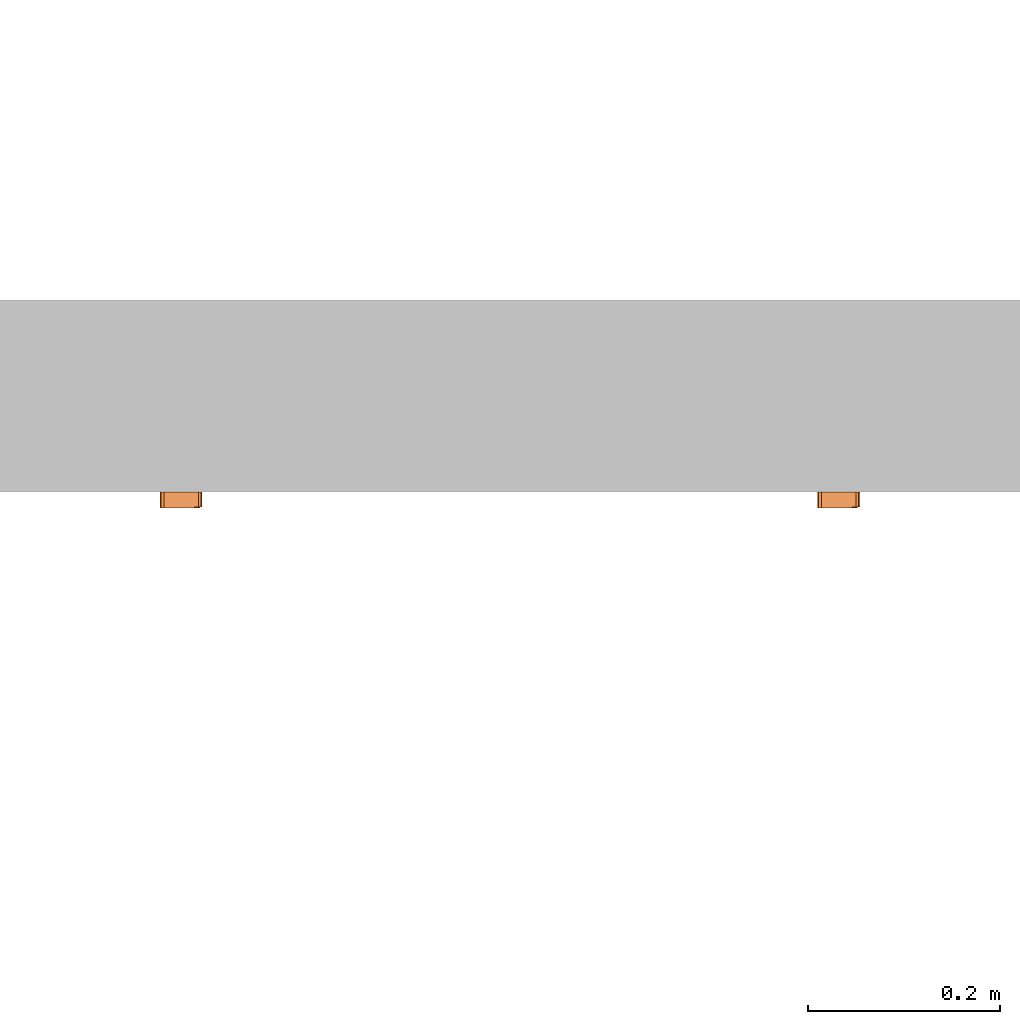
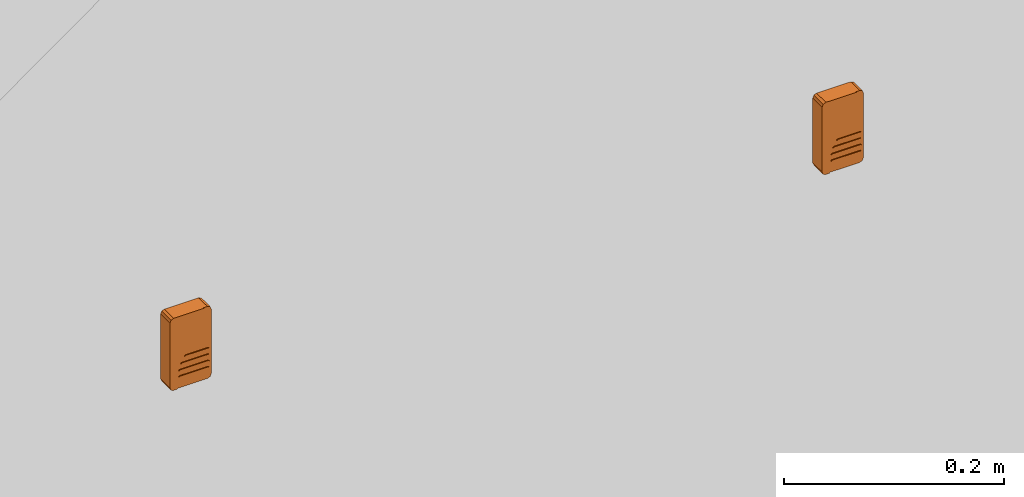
# One storey, part 187 of 197: 2 proxies.
"""IFC2X3 building model written with IfcOpenShell, lengths in metres."""

from ifc_helpers import new_model, entity, si_unit, converted_unit, direction, frame, origin, place, context, subcontext, project, spatial, faceted_brep, source, transform, mapped, material, material_list, type_object, type_shapes, element, save


model = new_model("IFC2X3")

# Units and contexts
model_context = context("Model", 3, precision=1e-05, world=origin(), true_north=direction((6.123031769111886e-17, 1.0)))
body_context = subcontext(model_context, "Body", "Model", "MODEL_VIEW")
ifc_project = project(units=[si_unit("LENGTHUNIT", "METRE"), converted_unit("PLANEANGLEUNIT", "DEGREE", entity("IfcPlaneAngleMeasure", 0.017453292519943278), si_unit("PLANEANGLEUNIT", "RADIAN"), dimensions=[0, 0, 0, 0, 0, 0, 0]), si_unit("AREAUNIT", "SQUARE_METRE")], contexts=[model_context])

# Site, building, storey
site_placement = place(None, origin())
site = spatial("IfcSite", under=ifc_project, at=site_placement, Name="Default", CompositionType="ELEMENT")
building_placement = place(site_placement, origin())
building = spatial("IfcBuilding", under=site, at=building_placement, CompositionType="ELEMENT")
storey_placement = place(building_placement, origin())
storey = spatial("IfcBuildingStorey", under=building, at=storey_placement, Name="Niveau 0", CompositionType="ELEMENT", Elevation=0.0)

# Proxies
ifc_material_1 = material(Name="BETCE-VOYANT LECTEUR BADGE-VERT")
ifc_material_2 = material(Name="BETCE-LECTEUR BADGE-NOIR")
ifc_material_list = material_list([ifc_material_1, ifc_material_2])
building_element_proxy_type_1 = type_object("IfcBuildingElementProxyType", Name="Lecteur de badge saillie controle acces:MAGENTA", PredefinedType="NOTDEFINED", material=ifc_material_list)
shared_shape_1 = source(origin(), body_context, "Body", "Brep", [
    faceted_brep([(0.007121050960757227, -0.01700000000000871, 0.019818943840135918), (0.00912105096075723, -0.01700000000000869, 0.01781894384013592), (0.011121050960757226, -0.01700000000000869, 0.01981894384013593), (0.00912105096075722, -0.01700000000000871, 0.02181894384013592), (0.009121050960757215, -0.01600000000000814, 0.021818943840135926), (0.01112105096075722, -0.01600000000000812, 0.019818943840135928), (0.009121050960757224, -0.01600000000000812, 0.017818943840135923), (0.0071210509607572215, -0.01600000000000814, 0.019818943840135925)], [[[0, 1, 2, 3]], [[4, 5, 6, 7]], [[0, 7, 6, 1]], [[6, 5, 2, 1]], [[2, 5, 4, 3]], [[4, 7, 0, 3]]]),
    faceted_brep([(0.00912105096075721, -0.01700000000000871, 0.021818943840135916), (0.014034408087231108, -0.017000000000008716, 0.028399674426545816), (0.014027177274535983, -0.017000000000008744, 0.03400142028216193), (-0.017999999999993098, -0.017000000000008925, 0.03999999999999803), (0.013910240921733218, -0.017000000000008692, 0.023212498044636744), (0.01112105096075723, -0.01700000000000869, 0.019818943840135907), (0.007121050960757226, -0.01700000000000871, 0.019818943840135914), (0.01354322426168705, -0.01700000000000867, 0.01845762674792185), (0.00912105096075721, -0.01700000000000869, 0.01781894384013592), (0.012821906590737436, -0.017000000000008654, 0.014152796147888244), (0.011634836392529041, -0.01700000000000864, 0.010315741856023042), (0.009870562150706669, -0.017000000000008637, 0.0069641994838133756), (0.007417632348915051, -0.017000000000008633, 0.004115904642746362), (0.0041645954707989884, -0.017000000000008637, 0.001788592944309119), (0.014000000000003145, -0.017000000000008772, 0.03999999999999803), (-0.021999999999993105, -0.017000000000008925, 0.035999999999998), (-0.020828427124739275, -0.01700000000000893, 0.03882842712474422), (-0.00416459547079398, -0.01700000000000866, -0.0017885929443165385), (-0.007417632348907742, -0.017000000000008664, -0.004115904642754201), (-0.009870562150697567, -0.01700000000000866, -0.006964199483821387), (-0.011634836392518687, -0.017000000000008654, -0.01031574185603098), (-0.012821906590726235, -0.01700000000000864, -0.014152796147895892), (-0.021999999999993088, -0.01700000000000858, -0.036000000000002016), (-0.013543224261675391, -0.017000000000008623, -0.018457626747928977), (-0.013910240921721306, -0.017000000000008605, -0.023212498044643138), (-0.014034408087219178, -0.01700000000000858, -0.028399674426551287), (-0.014027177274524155, -0.017000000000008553, -0.03400142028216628), (-0.017999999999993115, -0.017000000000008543, -0.04000000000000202), (-0.020828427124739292, -0.017000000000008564, -0.0388284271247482), (-0.01399999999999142, -0.017000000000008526, -0.04000000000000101), (0.0, -0.017000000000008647, 0.0), (0.019649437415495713, -0.017000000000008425, -0.02758760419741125), (0.018649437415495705, -0.017000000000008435, -0.026587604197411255), (-0.011350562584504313, -0.017000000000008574, -0.02658760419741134), (-0.012350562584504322, -0.017000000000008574, -0.027587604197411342), (-0.011350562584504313, -0.017000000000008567, -0.028587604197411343), (0.018649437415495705, -0.017000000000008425, -0.028587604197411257), (0.01964943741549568, -0.017000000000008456, -0.02058760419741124), (0.01864943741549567, -0.017000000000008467, -0.01958760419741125), (-0.011350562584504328, -0.01700000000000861, -0.019587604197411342), (-0.012350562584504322, -0.01700000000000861, -0.020587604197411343), (-0.011350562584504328, -0.0170000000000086, -0.021587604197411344), (0.01864943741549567, -0.017000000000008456, -0.021587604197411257), (0.019649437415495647, -0.01700000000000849, -0.013587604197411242), (0.01864943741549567, -0.0170000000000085, -0.01258760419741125), (-0.009350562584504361, -0.017000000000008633, -0.012587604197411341), (-0.010350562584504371, -0.017000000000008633, -0.013587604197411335), (-0.009350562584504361, -0.017000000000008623, -0.014587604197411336), (0.01864943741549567, -0.01700000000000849, -0.014587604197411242), (0.019649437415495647, -0.017000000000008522, -0.006587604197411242), (0.018649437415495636, -0.017000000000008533, -0.00558760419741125), (-0.005350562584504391, -0.017000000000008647, -0.0055876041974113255), (-0.0063505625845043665, -0.017000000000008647, -0.006587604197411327), (-0.005350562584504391, -0.017000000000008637, -0.007587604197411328), (0.018649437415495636, -0.017000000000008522, -0.007587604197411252), (-0.006350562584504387, -0.016000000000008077, -0.006587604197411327), (-0.007417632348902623, -0.016000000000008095, -0.004115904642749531), (-0.009870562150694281, -0.01600000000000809, -0.0069641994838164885), (-0.005350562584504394, -0.016000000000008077, -0.005587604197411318), (-0.005350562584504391, -0.01600000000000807, -0.0075876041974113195), (-0.004164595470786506, -0.01600000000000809, -0.0017885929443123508), (0.0, -0.01600000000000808, 0.0), (0.01864943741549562, -0.016000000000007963, -0.00558760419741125), (0.004164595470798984, -0.016000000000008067, 0.001788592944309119), (0.007417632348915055, -0.016000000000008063, 0.004115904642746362), (0.00987056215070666, -0.016000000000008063, 0.0069641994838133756), (0.011634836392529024, -0.016000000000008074, 0.010315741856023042), (0.01282190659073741, -0.016000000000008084, 0.01415279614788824), (0.019649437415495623, -0.016000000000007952, -0.006587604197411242), (0.013543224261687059, -0.0160000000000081, 0.01845762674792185), (0.02200000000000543, -0.016000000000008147, 0.035999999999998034), (0.022000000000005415, -0.016000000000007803, -0.03600000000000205), (0.01964943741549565, -0.01600000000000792, -0.013587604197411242), (0.01864943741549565, -0.016000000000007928, -0.01258760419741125), (0.018649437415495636, -0.016000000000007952, -0.007587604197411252), (-0.009350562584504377, -0.016000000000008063, -0.012587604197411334), (0.019649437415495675, -0.016000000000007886, -0.02058760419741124), (0.01864943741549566, -0.016000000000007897, -0.01958760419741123), (0.01864943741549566, -0.01600000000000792, -0.014587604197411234), (-0.00935056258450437, -0.016000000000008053, -0.014587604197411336), (-0.011350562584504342, -0.01600000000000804, -0.019587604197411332), (-0.013543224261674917, -0.016000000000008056, -0.01845762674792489), (-0.012821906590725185, -0.016000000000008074, -0.014152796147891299), (-0.010350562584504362, -0.016000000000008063, -0.013587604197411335), (-0.011634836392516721, -0.016000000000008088, -0.010315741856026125), (-0.012350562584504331, -0.01600000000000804, -0.020587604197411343), (-0.013910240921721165, -0.016000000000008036, -0.02321249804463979), (-0.011350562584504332, -0.016000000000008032, -0.021587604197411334), (-0.011350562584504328, -0.016000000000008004, -0.02658760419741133), (-0.012350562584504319, -0.016000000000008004, -0.027587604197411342), (-0.014034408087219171, -0.01600000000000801, -0.02839967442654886), (-0.011350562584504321, -0.016000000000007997, -0.028587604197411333), (-0.014027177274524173, -0.016000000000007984, -0.03400142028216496), (-0.013999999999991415, -0.016000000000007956, -0.040000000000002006), (0.01800000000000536, -0.016000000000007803, -0.040000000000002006), (0.020828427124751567, -0.016000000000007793, -0.038828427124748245), (0.018649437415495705, -0.016000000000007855, -0.02858760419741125), (0.01864943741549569, -0.016000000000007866, -0.026587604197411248), (0.01864943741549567, -0.016000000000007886, -0.02158760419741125), (0.019649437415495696, -0.016000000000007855, -0.02758760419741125), (0.01391024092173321, -0.016000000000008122, 0.02321249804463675), (0.014034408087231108, -0.016000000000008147, 0.028399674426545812), (0.014027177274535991, -0.016000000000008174, 0.03400142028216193), (0.018000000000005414, -0.016000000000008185, 0.03999999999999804), (0.02082842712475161, -0.016000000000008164, 0.03882842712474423), (0.014000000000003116, -0.016000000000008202, 0.03999999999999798), (0.00912105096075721, -0.01600000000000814, 0.02181894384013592), (0.0071210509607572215, -0.01600000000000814, 0.019818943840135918), (0.009121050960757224, -0.01600000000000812, 0.01781894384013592), (0.01112105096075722, -0.01600000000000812, 0.019818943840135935), (-0.02199999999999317, 0.0, 0.03599999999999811), (-0.020828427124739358, 0.0, 0.038828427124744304), (-0.01799999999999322, 0.0, 0.03999999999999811), (0.01800000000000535, 0.0, 0.03999999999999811), (0.02082842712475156, 0.0, 0.038828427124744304), (0.022000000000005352, 0.0, 0.03599999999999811), (0.022000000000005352, 0.0, -0.03600000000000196), (0.020828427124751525, 0.0, -0.03882842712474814), (0.018000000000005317, 0.0, -0.04000000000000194), (-0.017999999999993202, 0.0, -0.04000000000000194), (-0.020828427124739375, 0.0, -0.038828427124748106), (-0.02199999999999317, 0.0, -0.03600000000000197), (0.01400000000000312, -0.016454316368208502, 0.03999999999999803), (-0.013999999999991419, -0.016545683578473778, -0.04000000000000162), (-0.013995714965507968, -0.016499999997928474, -0.025753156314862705), (-0.014040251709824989, -0.016499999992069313, -0.031149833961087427), (-0.013764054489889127, -0.016499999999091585, -0.020779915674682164), (-0.013233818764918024, -0.016500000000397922, -0.016247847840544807), (-0.010831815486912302, -0.01649999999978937, -0.008578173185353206), (-0.012293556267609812, -0.016499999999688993, -0.012174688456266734), (-0.005898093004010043, -0.016499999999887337, -0.0028860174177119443), (0.0, -0.016454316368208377, 0.0), (-0.008737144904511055, -0.016499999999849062, -0.005476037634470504), (0.008737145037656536, -0.01649999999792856, 0.005476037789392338), (0.005898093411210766, -0.016499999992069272, 0.002886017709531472), (0.010831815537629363, -0.016499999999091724, 0.008578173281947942), (0.012293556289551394, -0.016500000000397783, 0.012174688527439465), (0.013764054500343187, -0.016499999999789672, 0.020779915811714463), (0.01323381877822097, -0.01649999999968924, 0.016247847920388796), (0.014040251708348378, -0.016499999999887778, 0.03114983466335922), (0.0139957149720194, -0.016499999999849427, 0.02575315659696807)], [[[0, 1, 2]], [[2, 3, 0]], [[0, 4, 1]], [[4, 0, 5]], [[6, 0, 3]], [[4, 5, 7]], [[7, 5, 8]], [[9, 7, 8]], [[8, 10, 9]], [[8, 11, 10]], [[8, 12, 11]], [[8, 6, 12]], [[12, 6, 13]], [[3, 2, 14]], [[6, 3, 15]], [[3, 16, 15]], [[17, 6, 15]], [[18, 17, 15]], [[18, 15, 19]], [[20, 19, 15]], [[21, 20, 15]], [[21, 15, 22]], [[23, 21, 22]], [[24, 23, 22]], [[22, 25, 24]], [[22, 26, 25]], [[22, 27, 26]], [[28, 27, 22]], [[29, 26, 27]], [[6, 17, 30]], [[6, 30, 13]], [[31, 32, 33, 34, 35, 36]], [[37, 38, 39, 40, 41, 42]], [[43, 44, 45, 46, 47, 48]], [[49, 50, 51, 52, 53, 54]], [[55, 56, 57]], [[58, 56, 55]], [[59, 55, 57]], [[56, 58, 60]], [[61, 60, 58]], [[62, 61, 58]], [[63, 61, 62]], [[64, 63, 62]], [[62, 65, 64]], [[62, 66, 65]], [[62, 67, 66]], [[68, 67, 62]], [[67, 68, 69]], [[69, 68, 70]], [[68, 71, 70]], [[71, 68, 72]], [[73, 72, 68]], [[73, 68, 74]], [[59, 73, 74]], [[73, 59, 75]], [[71, 72, 76]], [[72, 77, 76]], [[77, 72, 78]], [[77, 78, 79]], [[79, 80, 77]], [[79, 81, 80]], [[79, 82, 81]], [[79, 83, 82]], [[83, 75, 84]], [[82, 83, 84]], [[57, 84, 75]], [[59, 57, 75]], [[85, 80, 81]], [[81, 86, 85]], [[87, 85, 86]], [[86, 88, 87]], [[88, 86, 89]], [[89, 86, 90]], [[90, 91, 89]], [[92, 91, 90]], [[91, 92, 93]], [[91, 93, 94]], [[71, 94, 95]], [[96, 94, 71]], [[96, 91, 94]], [[97, 87, 88]], [[98, 87, 97]], [[97, 76, 98]], [[99, 76, 97]], [[71, 99, 96]], [[71, 76, 99]], [[70, 100, 69]], [[101, 100, 70]], [[101, 70, 102]], [[102, 70, 103]], [[70, 104, 103]], [[105, 102, 103]], [[106, 107, 108, 109]], [[110, 111, 112, 113, 114, 115, 116, 117, 118, 119, 120, 121]], [[3, 14, 122, 105, 103, 113, 112]], [[3, 112, 111, 16]], [[111, 110, 15, 16]], [[22, 15, 110, 121]], [[22, 121, 120, 28]], [[120, 119, 27, 28]], [[27, 119, 118, 94, 93, 123, 29]], [[94, 118, 117, 95]], [[117, 116, 71, 95]], [[70, 71, 116, 115]], [[70, 115, 114, 104]], [[114, 113, 103, 104]], [[26, 29, 123]], [[93, 92, 123]], [[124, 90, 86]], [[124, 125, 90]], [[125, 92, 90]], [[126, 86, 81]], [[126, 124, 86]], [[125, 123, 92]], [[125, 26, 123]], [[25, 124, 24]], [[125, 124, 25]], [[24, 124, 126]], [[81, 82, 127]], [[24, 126, 23]], [[23, 126, 127]], [[127, 126, 81]], [[127, 21, 23]], [[25, 26, 125]], [[128, 84, 57]], [[21, 129, 20]], [[130, 56, 60]], [[131, 17, 130]], [[19, 132, 18]], [[57, 56, 132]], [[60, 61, 63, 131]], [[131, 13, 30, 17]], [[84, 129, 82]], [[20, 129, 128]], [[132, 128, 57]], [[21, 127, 129]], [[128, 132, 19]], [[18, 132, 130]], [[18, 130, 17]], [[130, 60, 131]], [[128, 129, 84]], [[20, 128, 19]], [[130, 132, 56]], [[129, 127, 82]], [[133, 64, 65]], [[133, 134, 64]], [[134, 63, 64]], [[135, 65, 66]], [[135, 133, 65]], [[134, 131, 63]], [[134, 13, 131]], [[12, 133, 11]], [[134, 133, 12]], [[11, 133, 135]], [[66, 67, 136]], [[11, 135, 10]], [[10, 135, 136]], [[136, 135, 66]], [[136, 9, 10]], [[12, 13, 134]], [[137, 69, 100]], [[9, 138, 7]], [[139, 101, 102]], [[122, 2, 139]], [[4, 140, 1]], [[100, 101, 140]], [[102, 105, 122]], [[122, 14, 2]], [[69, 138, 67]], [[7, 138, 137]], [[140, 137, 100]], [[9, 136, 138]], [[137, 140, 4]], [[1, 140, 139]], [[1, 139, 2]], [[139, 102, 122]], [[137, 138, 69]], [[7, 137, 4]], [[139, 140, 101]], [[138, 136, 67]], [[50, 62, 58, 51]], [[58, 55, 52, 51]], [[52, 55, 59, 53]], [[53, 59, 74, 54]], [[74, 68, 49, 54]], [[49, 68, 62, 50]], [[44, 73, 75, 45]], [[75, 83, 46, 45]], [[46, 83, 79, 47]], [[47, 79, 78, 48]], [[78, 72, 43, 48]], [[43, 72, 73, 44]], [[38, 77, 80, 39]], [[80, 85, 40, 39]], [[40, 85, 87, 41]], [[41, 87, 98, 42]], [[98, 76, 37, 42]], [[37, 76, 77, 38]], [[32, 97, 88, 33]], [[88, 89, 34, 33]], [[34, 89, 91, 35]], [[35, 91, 96, 36]], [[96, 99, 31, 36]], [[31, 99, 97, 32]], [[106, 0, 6, 107]], [[109, 5, 0, 106]], [[108, 8, 5, 109]], [[107, 6, 8, 108]]]),
])
type_shapes(building_element_proxy_type_1, [shared_shape_1])
proxy_1_placement = place(storey_placement, frame((-504.53459512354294, -41.558644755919, 1.0)))
element("IfcBuildingElementProxy", 1, at=proxy_1_placement, inside=storey, type_object=building_element_proxy_type_1, material=ifc_material_list, Name="Lecteur de badge saillie controle acces:MAGENTA", ObjectType="Lecteur de badge saillie controle acces:MAGENTA", context=body_context, shape_type="MappedRepresentation", body=[
    mapped(shared_shape_1, transform((0.0, 0.0, 0.0), scale=1.0)),
])
building_element_proxy_type_2 = type_object("IfcBuildingElementProxyType", Name="Lecteur de badge saillie controle acces:MARRON", PredefinedType="NOTDEFINED", material=ifc_material_list)
shared_shape_2 = source(origin(), body_context, "Body", "Brep", [
    faceted_brep([(0.007121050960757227, -0.01700000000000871, 0.019818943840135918), (0.00912105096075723, -0.01700000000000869, 0.01781894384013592), (0.011121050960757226, -0.01700000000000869, 0.01981894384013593), (0.00912105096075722, -0.01700000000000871, 0.02181894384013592), (0.009121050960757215, -0.01600000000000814, 0.021818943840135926), (0.01112105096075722, -0.01600000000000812, 0.019818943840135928), (0.009121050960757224, -0.01600000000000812, 0.017818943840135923), (0.0071210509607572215, -0.01600000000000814, 0.019818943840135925)], [[[0, 1, 2, 3]], [[4, 5, 6, 7]], [[0, 7, 6, 1]], [[6, 5, 2, 1]], [[2, 5, 4, 3]], [[4, 7, 0, 3]]]),
    faceted_brep([(0.00912105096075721, -0.01700000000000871, 0.021818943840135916), (0.014034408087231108, -0.017000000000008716, 0.028399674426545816), (0.014027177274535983, -0.017000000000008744, 0.03400142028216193), (-0.017999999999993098, -0.017000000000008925, 0.03999999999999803), (0.013910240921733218, -0.017000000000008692, 0.023212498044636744), (0.01112105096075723, -0.01700000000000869, 0.019818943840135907), (0.007121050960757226, -0.01700000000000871, 0.019818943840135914), (0.01354322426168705, -0.01700000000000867, 0.01845762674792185), (0.00912105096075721, -0.01700000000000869, 0.01781894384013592), (0.012821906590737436, -0.017000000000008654, 0.014152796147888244), (0.011634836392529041, -0.01700000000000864, 0.010315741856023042), (0.009870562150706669, -0.017000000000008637, 0.0069641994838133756), (0.007417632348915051, -0.017000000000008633, 0.004115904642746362), (0.0041645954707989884, -0.017000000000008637, 0.001788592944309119), (0.014000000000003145, -0.017000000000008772, 0.03999999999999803), (-0.021999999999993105, -0.017000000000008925, 0.035999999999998), (-0.020828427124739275, -0.01700000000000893, 0.03882842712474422), (-0.00416459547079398, -0.01700000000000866, -0.0017885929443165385), (-0.007417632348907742, -0.017000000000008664, -0.004115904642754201), (-0.009870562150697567, -0.01700000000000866, -0.006964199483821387), (-0.011634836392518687, -0.017000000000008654, -0.01031574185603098), (-0.012821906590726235, -0.01700000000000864, -0.014152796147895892), (-0.021999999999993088, -0.01700000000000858, -0.036000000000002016), (-0.013543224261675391, -0.017000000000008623, -0.018457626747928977), (-0.013910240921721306, -0.017000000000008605, -0.023212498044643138), (-0.014034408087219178, -0.01700000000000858, -0.028399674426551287), (-0.014027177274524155, -0.017000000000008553, -0.03400142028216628), (-0.017999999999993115, -0.017000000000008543, -0.04000000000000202), (-0.020828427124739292, -0.017000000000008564, -0.0388284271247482), (-0.01399999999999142, -0.017000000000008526, -0.04000000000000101), (0.0, -0.017000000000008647, 0.0), (0.019649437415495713, -0.017000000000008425, -0.02758760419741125), (0.018649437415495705, -0.017000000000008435, -0.026587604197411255), (-0.011350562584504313, -0.017000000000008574, -0.02658760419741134), (-0.012350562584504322, -0.017000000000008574, -0.027587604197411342), (-0.011350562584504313, -0.017000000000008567, -0.028587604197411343), (0.018649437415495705, -0.017000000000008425, -0.028587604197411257), (0.01964943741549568, -0.017000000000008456, -0.02058760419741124), (0.01864943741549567, -0.017000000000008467, -0.01958760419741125), (-0.011350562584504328, -0.01700000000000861, -0.019587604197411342), (-0.012350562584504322, -0.01700000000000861, -0.020587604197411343), (-0.011350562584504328, -0.0170000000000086, -0.021587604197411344), (0.01864943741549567, -0.017000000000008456, -0.021587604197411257), (0.019649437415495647, -0.01700000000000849, -0.013587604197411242), (0.01864943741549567, -0.0170000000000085, -0.01258760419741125), (-0.009350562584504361, -0.017000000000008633, -0.012587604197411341), (-0.010350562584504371, -0.017000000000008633, -0.013587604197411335), (-0.009350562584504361, -0.017000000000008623, -0.014587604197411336), (0.01864943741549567, -0.01700000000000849, -0.014587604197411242), (0.019649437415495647, -0.017000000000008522, -0.006587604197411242), (0.018649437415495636, -0.017000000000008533, -0.00558760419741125), (-0.005350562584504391, -0.017000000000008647, -0.0055876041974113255), (-0.0063505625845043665, -0.017000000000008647, -0.006587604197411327), (-0.005350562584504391, -0.017000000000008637, -0.007587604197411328), (0.018649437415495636, -0.017000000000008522, -0.007587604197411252), (-0.006350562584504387, -0.016000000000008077, -0.006587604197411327), (-0.007417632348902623, -0.016000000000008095, -0.004115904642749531), (-0.009870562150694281, -0.01600000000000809, -0.0069641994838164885), (-0.005350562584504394, -0.016000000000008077, -0.005587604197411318), (-0.005350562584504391, -0.01600000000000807, -0.0075876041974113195), (-0.004164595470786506, -0.01600000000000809, -0.0017885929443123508), (0.0, -0.01600000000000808, 0.0), (0.01864943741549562, -0.016000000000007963, -0.00558760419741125), (0.004164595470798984, -0.016000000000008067, 0.001788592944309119), (0.007417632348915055, -0.016000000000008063, 0.004115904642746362), (0.00987056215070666, -0.016000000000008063, 0.0069641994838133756), (0.011634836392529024, -0.016000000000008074, 0.010315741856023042), (0.01282190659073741, -0.016000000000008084, 0.01415279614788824), (0.019649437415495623, -0.016000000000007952, -0.006587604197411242), (0.013543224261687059, -0.0160000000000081, 0.01845762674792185), (0.02200000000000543, -0.016000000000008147, 0.035999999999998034), (0.022000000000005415, -0.016000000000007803, -0.03600000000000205), (0.01964943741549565, -0.01600000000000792, -0.013587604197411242), (0.01864943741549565, -0.016000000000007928, -0.01258760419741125), (0.018649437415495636, -0.016000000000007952, -0.007587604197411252), (-0.009350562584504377, -0.016000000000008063, -0.012587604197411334), (0.019649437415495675, -0.016000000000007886, -0.02058760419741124), (0.01864943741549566, -0.016000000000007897, -0.01958760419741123), (0.01864943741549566, -0.01600000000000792, -0.014587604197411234), (-0.00935056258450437, -0.016000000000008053, -0.014587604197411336), (-0.011350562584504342, -0.01600000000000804, -0.019587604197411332), (-0.013543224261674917, -0.016000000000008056, -0.01845762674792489), (-0.012821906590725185, -0.016000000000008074, -0.014152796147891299), (-0.010350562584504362, -0.016000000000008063, -0.013587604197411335), (-0.011634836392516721, -0.016000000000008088, -0.010315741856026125), (-0.012350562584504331, -0.01600000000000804, -0.020587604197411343), (-0.013910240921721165, -0.016000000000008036, -0.02321249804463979), (-0.011350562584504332, -0.016000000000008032, -0.021587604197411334), (-0.011350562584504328, -0.016000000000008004, -0.02658760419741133), (-0.012350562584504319, -0.016000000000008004, -0.027587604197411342), (-0.014034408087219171, -0.01600000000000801, -0.02839967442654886), (-0.011350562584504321, -0.016000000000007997, -0.028587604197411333), (-0.014027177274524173, -0.016000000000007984, -0.03400142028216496), (-0.013999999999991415, -0.016000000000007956, -0.040000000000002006), (0.01800000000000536, -0.016000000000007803, -0.040000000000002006), (0.020828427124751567, -0.016000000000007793, -0.038828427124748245), (0.018649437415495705, -0.016000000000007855, -0.02858760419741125), (0.01864943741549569, -0.016000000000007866, -0.026587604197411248), (0.01864943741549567, -0.016000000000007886, -0.02158760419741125), (0.019649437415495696, -0.016000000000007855, -0.02758760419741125), (0.01391024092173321, -0.016000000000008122, 0.02321249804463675), (0.014034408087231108, -0.016000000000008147, 0.028399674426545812), (0.014027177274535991, -0.016000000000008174, 0.03400142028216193), (0.018000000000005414, -0.016000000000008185, 0.03999999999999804), (0.02082842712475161, -0.016000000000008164, 0.03882842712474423), (0.014000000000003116, -0.016000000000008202, 0.03999999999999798), (0.00912105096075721, -0.01600000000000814, 0.02181894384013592), (0.0071210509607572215, -0.01600000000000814, 0.019818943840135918), (0.009121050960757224, -0.01600000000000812, 0.01781894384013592), (0.01112105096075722, -0.01600000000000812, 0.019818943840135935), (-0.02199999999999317, 0.0, 0.03599999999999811), (-0.020828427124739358, 0.0, 0.038828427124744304), (-0.01799999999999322, 0.0, 0.03999999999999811), (0.01800000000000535, 0.0, 0.03999999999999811), (0.02082842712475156, 0.0, 0.038828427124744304), (0.022000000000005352, 0.0, 0.03599999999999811), (0.022000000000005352, 0.0, -0.03600000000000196), (0.020828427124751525, 0.0, -0.03882842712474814), (0.018000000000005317, 0.0, -0.04000000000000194), (-0.017999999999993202, 0.0, -0.04000000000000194), (-0.020828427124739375, 0.0, -0.038828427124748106), (-0.02199999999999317, 0.0, -0.03600000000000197), (0.01400000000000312, -0.016454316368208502, 0.03999999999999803), (-0.013999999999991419, -0.016545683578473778, -0.04000000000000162), (-0.013995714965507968, -0.016499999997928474, -0.025753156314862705), (-0.014040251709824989, -0.016499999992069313, -0.031149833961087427), (-0.013764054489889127, -0.016499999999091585, -0.020779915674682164), (-0.013233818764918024, -0.016500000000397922, -0.016247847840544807), (-0.010831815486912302, -0.01649999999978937, -0.008578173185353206), (-0.012293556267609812, -0.016499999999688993, -0.012174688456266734), (-0.005898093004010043, -0.016499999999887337, -0.0028860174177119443), (0.0, -0.016454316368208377, 0.0), (-0.008737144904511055, -0.016499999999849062, -0.005476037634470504), (0.008737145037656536, -0.01649999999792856, 0.005476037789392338), (0.005898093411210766, -0.016499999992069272, 0.002886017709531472), (0.010831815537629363, -0.016499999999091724, 0.008578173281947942), (0.012293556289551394, -0.016500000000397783, 0.012174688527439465), (0.013764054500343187, -0.016499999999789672, 0.020779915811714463), (0.01323381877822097, -0.01649999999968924, 0.016247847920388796), (0.014040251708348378, -0.016499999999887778, 0.03114983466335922), (0.0139957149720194, -0.016499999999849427, 0.02575315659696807)], [[[0, 1, 2]], [[2, 3, 0]], [[0, 4, 1]], [[4, 0, 5]], [[6, 0, 3]], [[4, 5, 7]], [[7, 5, 8]], [[9, 7, 8]], [[8, 10, 9]], [[8, 11, 10]], [[8, 12, 11]], [[8, 6, 12]], [[12, 6, 13]], [[3, 2, 14]], [[6, 3, 15]], [[3, 16, 15]], [[17, 6, 15]], [[18, 17, 15]], [[18, 15, 19]], [[20, 19, 15]], [[21, 20, 15]], [[21, 15, 22]], [[23, 21, 22]], [[24, 23, 22]], [[22, 25, 24]], [[22, 26, 25]], [[22, 27, 26]], [[28, 27, 22]], [[29, 26, 27]], [[6, 17, 30]], [[6, 30, 13]], [[31, 32, 33, 34, 35, 36]], [[37, 38, 39, 40, 41, 42]], [[43, 44, 45, 46, 47, 48]], [[49, 50, 51, 52, 53, 54]], [[55, 56, 57]], [[58, 56, 55]], [[59, 55, 57]], [[56, 58, 60]], [[61, 60, 58]], [[62, 61, 58]], [[63, 61, 62]], [[64, 63, 62]], [[62, 65, 64]], [[62, 66, 65]], [[62, 67, 66]], [[68, 67, 62]], [[67, 68, 69]], [[69, 68, 70]], [[68, 71, 70]], [[71, 68, 72]], [[73, 72, 68]], [[73, 68, 74]], [[59, 73, 74]], [[73, 59, 75]], [[71, 72, 76]], [[72, 77, 76]], [[77, 72, 78]], [[77, 78, 79]], [[79, 80, 77]], [[79, 81, 80]], [[79, 82, 81]], [[79, 83, 82]], [[83, 75, 84]], [[82, 83, 84]], [[57, 84, 75]], [[59, 57, 75]], [[85, 80, 81]], [[81, 86, 85]], [[87, 85, 86]], [[86, 88, 87]], [[88, 86, 89]], [[89, 86, 90]], [[90, 91, 89]], [[92, 91, 90]], [[91, 92, 93]], [[91, 93, 94]], [[71, 94, 95]], [[96, 94, 71]], [[96, 91, 94]], [[97, 87, 88]], [[98, 87, 97]], [[97, 76, 98]], [[99, 76, 97]], [[71, 99, 96]], [[71, 76, 99]], [[70, 100, 69]], [[101, 100, 70]], [[101, 70, 102]], [[102, 70, 103]], [[70, 104, 103]], [[105, 102, 103]], [[106, 107, 108, 109]], [[110, 111, 112, 113, 114, 115, 116, 117, 118, 119, 120, 121]], [[3, 14, 122, 105, 103, 113, 112]], [[3, 112, 111, 16]], [[111, 110, 15, 16]], [[22, 15, 110, 121]], [[22, 121, 120, 28]], [[120, 119, 27, 28]], [[27, 119, 118, 94, 93, 123, 29]], [[94, 118, 117, 95]], [[117, 116, 71, 95]], [[70, 71, 116, 115]], [[70, 115, 114, 104]], [[114, 113, 103, 104]], [[26, 29, 123]], [[93, 92, 123]], [[124, 90, 86]], [[124, 125, 90]], [[125, 92, 90]], [[126, 86, 81]], [[126, 124, 86]], [[125, 123, 92]], [[125, 26, 123]], [[25, 124, 24]], [[125, 124, 25]], [[24, 124, 126]], [[81, 82, 127]], [[24, 126, 23]], [[23, 126, 127]], [[127, 126, 81]], [[127, 21, 23]], [[25, 26, 125]], [[128, 84, 57]], [[21, 129, 20]], [[130, 56, 60]], [[131, 17, 130]], [[19, 132, 18]], [[57, 56, 132]], [[60, 61, 63, 131]], [[131, 13, 30, 17]], [[84, 129, 82]], [[20, 129, 128]], [[132, 128, 57]], [[21, 127, 129]], [[128, 132, 19]], [[18, 132, 130]], [[18, 130, 17]], [[130, 60, 131]], [[128, 129, 84]], [[20, 128, 19]], [[130, 132, 56]], [[129, 127, 82]], [[133, 64, 65]], [[133, 134, 64]], [[134, 63, 64]], [[135, 65, 66]], [[135, 133, 65]], [[134, 131, 63]], [[134, 13, 131]], [[12, 133, 11]], [[134, 133, 12]], [[11, 133, 135]], [[66, 67, 136]], [[11, 135, 10]], [[10, 135, 136]], [[136, 135, 66]], [[136, 9, 10]], [[12, 13, 134]], [[137, 69, 100]], [[9, 138, 7]], [[139, 101, 102]], [[122, 2, 139]], [[4, 140, 1]], [[100, 101, 140]], [[102, 105, 122]], [[122, 14, 2]], [[69, 138, 67]], [[7, 138, 137]], [[140, 137, 100]], [[9, 136, 138]], [[137, 140, 4]], [[1, 140, 139]], [[1, 139, 2]], [[139, 102, 122]], [[137, 138, 69]], [[7, 137, 4]], [[139, 140, 101]], [[138, 136, 67]], [[50, 62, 58, 51]], [[58, 55, 52, 51]], [[52, 55, 59, 53]], [[53, 59, 74, 54]], [[74, 68, 49, 54]], [[49, 68, 62, 50]], [[44, 73, 75, 45]], [[75, 83, 46, 45]], [[46, 83, 79, 47]], [[47, 79, 78, 48]], [[78, 72, 43, 48]], [[43, 72, 73, 44]], [[38, 77, 80, 39]], [[80, 85, 40, 39]], [[40, 85, 87, 41]], [[41, 87, 98, 42]], [[98, 76, 37, 42]], [[37, 76, 77, 38]], [[32, 97, 88, 33]], [[88, 89, 34, 33]], [[34, 89, 91, 35]], [[35, 91, 96, 36]], [[96, 99, 31, 36]], [[31, 99, 97, 32]], [[106, 0, 6, 107]], [[109, 5, 0, 106]], [[108, 8, 5, 109]], [[107, 6, 8, 108]]]),
])
type_shapes(building_element_proxy_type_2, [shared_shape_2])
proxy_2_placement = place(storey_placement, frame((-503.84959512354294, -41.558644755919, 1.0)))
element("IfcBuildingElementProxy", 2, at=proxy_2_placement, inside=storey, type_object=building_element_proxy_type_2, material=ifc_material_list, Name="Lecteur de badge saillie controle acces:MARRON", ObjectType="Lecteur de badge saillie controle acces:MARRON", context=body_context, shape_type="MappedRepresentation", body=[
    mapped(shared_shape_2, transform((0.0, 0.0, 0.0), scale=1.0)),
])

save(model, "model.ifc")
